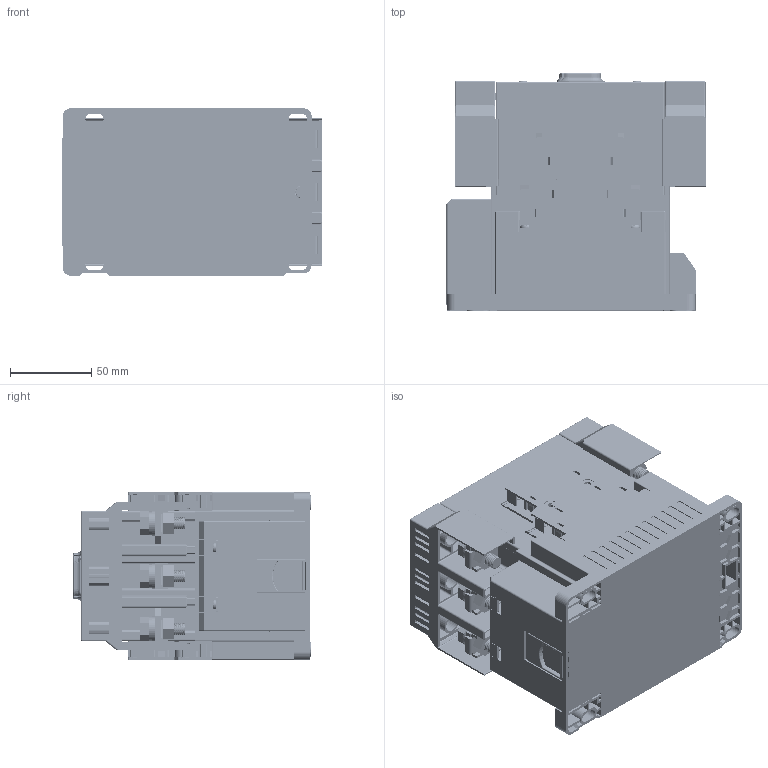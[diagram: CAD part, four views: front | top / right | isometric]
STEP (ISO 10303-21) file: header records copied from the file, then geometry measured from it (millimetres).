
FILE_DESCRIPTION(/* description */ (''),/* implementation_level */ '2;1');
FILE_NAME(/* name */ 'HGC150AF.stp',/* time_stamp */ '2017-09-21T13:22:18+09:00',/* author */ (''),/* organization */ (''),/* preprocessor_version */ 'ST-DEVELOPER v15',/* originating_system */ 'SIEMENS PLM Software NX 9.0',/* authorisation */ '');
FILE_SCHEMA (('CONFIG_CONTROL_DESIGN'));
Products named in the file (1): HGC150AF
Bounding box: 159.4 x 146.1 x 103 mm (x, y, z)
Volume: 1548435.2 mm3; surface area: 285948.7 mm2
Topology: 1 solids, 36 shells, 5511 faces, 15329 edges, 9925 vertices
Faces by surface type: plane 3944, cylinder 1295, torus 118, cone 76, sphere 39, bspline 39
Full cylindrical faces by diameter (mm): 4 x8, 7 x2, 8 x8, 8.5 x6
Entity records: 199097 total; most frequent: CARTESIAN_POINT 58354, ORIENTED_EDGE 30478, DIRECTION 27738, EDGE_CURVE 15239, LINE 11908, VECTOR 11908, VERTEX_POINT 9924, AXIS2_PLACEMENT_3D 7915
